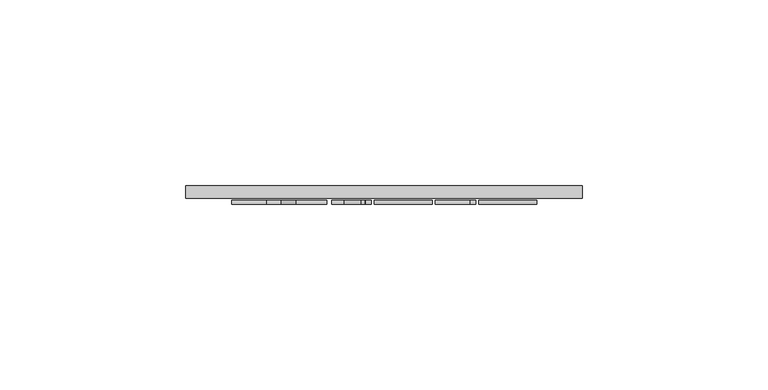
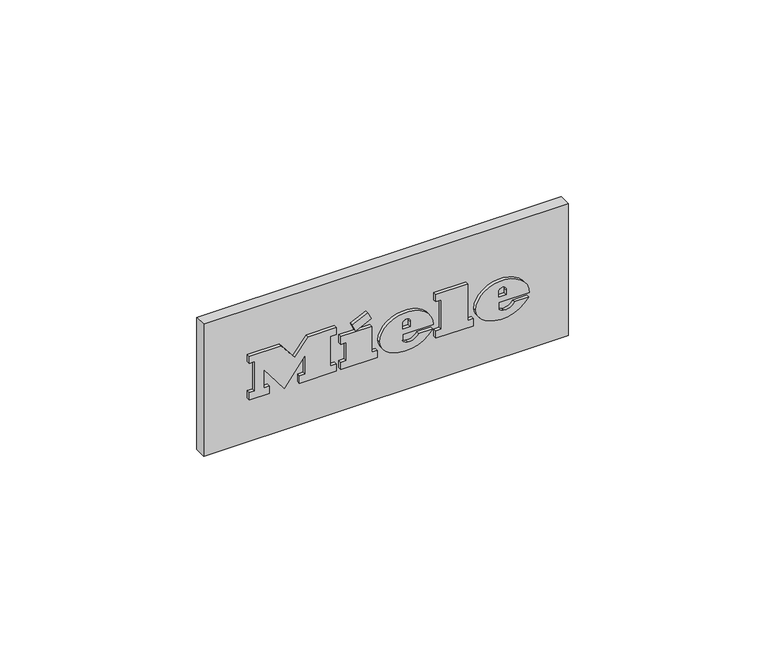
"""IFC4 building model written with IfcOpenShell, lengths in millimetres: proxy geometry, 12298850_USA_HR1422-3_EDST-CLST : 25142281_USA_12298850_HR1422-3_EDST-CLST."""

from ifc_helpers import new_model, si_unit, point, frame, frame_2d, origin, place, context, project, spatial, polyline, circle_curve, ellipse_curve, trimmed, segment, composite_curve, outline, extrude, source, transform, mapped, element, save
from ifc_brep_helpers import plane_surface, cylinder_surface, revolved_surface, extruded_surface, advanced_brep


def specialty_equipment_dd086f72(model_context):
    return source(origin(), model_context, "Body", "SolidModel", [
        advanced_brep(
        [(32.17, -675.0, 177.1995), (32.17, -675.0, 178.563), (41.2015, -675.0, 178.563), (25.4875, -675.0, 178.563), (29.2, -675.0, 174.0), (40.972, -675.0, 177.1995), (36.895, -675.0, 177.1995), (33.682, -675.0, 175.6875), (32.17, -675.0, 180.291), (32.17, -675.0, 181.7625), (34.4785, -675.0, 181.7625), (34.4785, -675.0, 180.291), (32.17, -674.0, 177.1995), (33.682, -674.0, 175.6875), (36.895, -674.0, 177.1995), (40.972, -674.0, 177.1995), (29.2, -674.0, 174.0), (25.4875, -674.0, 178.563), (41.2015, -674.0, 178.563), (32.17, -674.0, 178.563), (32.17, -674.0, 180.291), (34.4785, -674.0, 180.291), (34.4785, -674.0, 181.7625), (32.17, -674.0, 181.7625)],
        [
            (0, 1),
            (1, 2),
            (2, 3, ellipse_curve(frame((33.3445, -675.0, 178.563), z_axis=(0.0, -1.0, 0.0), x_axis=(-1.0, 0.0, 0.0)), 7.857, 6.4935)),
            (3, 4, circle_curve(frame((30.7120736, -675.0, 179.022), z_axis=(0.0, -1.0, 0.0), x_axis=(0.0, 0.0, -1.0)), 5.2446974)),
            (4, 5, circle_curve(frame((33.1872142, -675.0, 182.586), z_axis=(0.0, -1.0, 0.0), x_axis=(0.0, 0.0, -1.0)), 9.46664)),
            (5, 6),
            (6, 7, circle_curve(frame((34.3419118, -675.0, 178.455), z_axis=(0.0, 1.0, 0.0), x_axis=(0.0, 0.0, -1.0)), 2.8450905)),
            (7, 0, circle_curve(frame((33.682, -675.0, 177.1995), z_axis=(0.0, 1.0, 0.0), x_axis=(0.0, 0.0, -1.0)), 1.512)),
            (8, 9),
            (9, 10, circle_curve(frame((33.32425, -675.0, 181.7625), z_axis=(0.0, 1.0, 0.0), x_axis=(0.0, 0.0, -1.0)), 1.15425)),
            (10, 11),
            (11, 8),
            (12, 13, circle_curve(frame((33.682, -674.0, 177.1995), z_axis=(0.0, -1.0, 0.0), x_axis=(0.0, 0.0, -1.0)), 1.512)),
            (13, 14, circle_curve(frame((34.3419118, -674.0, 178.455), z_axis=(0.0, -1.0, 0.0), x_axis=(0.0, 0.0, -1.0)), 2.8450905)),
            (14, 15),
            (15, 16, circle_curve(frame((33.1872142, -674.0, 182.586), z_axis=(0.0, 1.0, 0.0), x_axis=(0.0, 0.0, -1.0)), 9.46664)),
            (16, 17, circle_curve(frame((30.7120736, -674.0, 179.022), z_axis=(0.0, 1.0, 0.0), x_axis=(0.0, 0.0, -1.0)), 5.2446974)),
            (17, 18, ellipse_curve(frame((33.3445, -674.0, 178.563), z_axis=(0.0, 1.0, 0.0), x_axis=(-1.0, 0.0, 0.0)), 7.857, 6.4935)),
            (18, 19),
            (19, 12),
            (20, 21),
            (21, 22),
            (22, 23, circle_curve(frame((33.32425, -674.0, 181.7625), z_axis=(0.0, -1.0, 0.0), x_axis=(0.0, 0.0, -1.0)), 1.15425)),
            (23, 20),
            (0, 12),
            (19, 1),
            (18, 2),
            (5, 15),
            (14, 6),
            (17, 3),
            (13, 7),
            (16, 4),
            (8, 20),
            (23, 9),
            (22, 10),
            (21, 11),
        ],
        [
            plane_surface(frame((32.17, -675.0, 178.563), z_axis=(0.0, -1.0, 0.0), x_axis=(0.0, 0.0, 1.0))),
            plane_surface(frame((32.17, -674.0, 178.563), z_axis=(0.0, 1.0, 0.0), x_axis=(0.0, 0.0, -1.0))),
            plane_surface(frame((32.17, -675.0, 177.1995), z_axis=(1.0, 0.0, 0.0), x_axis=(0.0, 1.0, 0.0))),
            plane_surface(frame((32.17, -675.0, 178.563), z_axis=(0.0, 0.0, -1.0), x_axis=(0.0, 1.0, 0.0))),
            plane_surface(frame((40.972, -675.0, 177.1995), z_axis=(0.0, 0.0, 1.0), x_axis=(0.0, 1.0, 0.0))),
            extruded_surface(trimmed(ellipse_curve(frame((33.3445, -673.0, 178.563), z_axis=(0.0, -1.0, 0.0), x_axis=(-1.0, 0.0, 0.0)), 7.857, 6.4935), [point((41.2015, -673.0, 178.563))], [point((25.4875, -673.0, 178.563))], True, "CARTESIAN"), (0.0, -1.0, 0.0), 1.0),
            revolved_surface(polyline([(34.3419118, -674.0, 175.60990950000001), (34.3419118, -675.0, 175.60990950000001)]), (34.3419118, -674.0, 178.455), (0.0, 1.0, 0.0)),
            revolved_surface(polyline([(33.682, -674.0, 175.6875), (33.682, -675.0, 175.6875)]), (33.682, -674.0, 177.1995), (0.0, 1.0, 0.0)),
            cylinder_surface(frame((30.7120736, -674.0, 179.022), z_axis=(0.0, -1.0, 0.0), x_axis=(0.0, 0.0, -1.0)), 5.2446974),
            cylinder_surface(frame((33.1872142, -674.0, 182.586), z_axis=(0.0, -1.0, 0.0), x_axis=(0.0, 0.0, -1.0)), 9.46664),
            plane_surface(frame((32.17, -675.0, 180.291), z_axis=(1.0, 0.0, 0.0), x_axis=(0.0, 1.0, 0.0))),
            revolved_surface(polyline([(33.32425, -674.0, 180.60825), (33.32425, -675.0, 180.60825)]), (33.32425, -674.0, 181.7625), (0.0, 1.0, 0.0)),
            plane_surface(frame((34.4785, -675.0, 181.7625), z_axis=(-1.0, 0.0, 0.0), x_axis=(0.0, 1.0, 0.0))),
            plane_surface(frame((34.4785, -675.0, 180.291), z_axis=(0.0, 0.0, 1.0), x_axis=(0.0, 1.0, 0.0))),
        ],
        [
            (0, [[1, 2, 3, 4, 5, 6, 7, 8], [9, 10, 11, 12]]),
            (1, [[13, 14, 15, 16, 17, 18, 19, 20], [21, 22, 23, 24]]),
            (2, [[-1, 25, -20, 26]]),
            (3, [[-2, -26, -19, 27]]),
            (4, [[-6, 28, -15, 29]]),
            (5, [[-3, -27, -18, 30]]),
            (6, [[-7, -29, -14, 31]]),
            (7, [[-8, -31, -13, -25]]),
            (8, [[-4, -30, -17, 32]]),
            (9, [[-5, -32, -16, -28]]),
            (10, [[-9, 33, -24, 34]]),
            (11, [[-10, -34, -23, 35]]),
            (12, [[-11, -35, -22, 36]]),
            (13, [[-12, -36, -21, -33]]),
        ],
    ),
        advanced_brep(
        [(3.9955, -675.0, 177.1995), (3.9955, -675.0, 178.563), (13.027, -675.0, 178.563), (-2.687, -675.0, 178.563), (1.0255, -675.0, 174.0), (12.7975, -675.0, 177.1995), (8.7205, -675.0, 177.1995), (5.5075, -675.0, 175.6875), (3.9955, -675.0, 180.291), (3.9955, -675.0, 181.7625), (6.304, -675.0, 181.7625), (6.304, -675.0, 180.291), (3.9955, -674.0, 177.1995), (5.5075, -674.0, 175.6875), (8.7205, -674.0, 177.1995), (12.7975, -674.0, 177.1995), (1.0255, -674.0, 174.0), (-2.687, -674.0, 178.563), (13.027, -674.0, 178.563), (3.9955, -674.0, 178.563), (3.9955, -674.0, 180.291), (6.304, -674.0, 180.291), (6.304, -674.0, 181.7625), (3.9955, -674.0, 181.7625)],
        [
            (0, 1),
            (1, 2),
            (2, 3, ellipse_curve(frame((5.17, -675.0, 178.563), z_axis=(0.0, -1.0, 0.0), x_axis=(-1.0, 0.0, 0.0)), 7.857, 6.4935)),
            (3, 4, circle_curve(frame((2.5375736, -675.0, 179.022), z_axis=(0.0, -1.0, 0.0), x_axis=(0.0, 0.0, -1.0)), 5.2446974)),
            (4, 5, circle_curve(frame((5.0127142, -675.0, 182.586), z_axis=(0.0, -1.0, 0.0), x_axis=(0.0, 0.0, -1.0)), 9.46664)),
            (5, 6),
            (6, 7, circle_curve(frame((6.1674118, -675.0, 178.455), z_axis=(0.0, 1.0, 0.0), x_axis=(0.0, 0.0, -1.0)), 2.8450905)),
            (7, 0, circle_curve(frame((5.5075, -675.0, 177.1995), z_axis=(0.0, 1.0, 0.0), x_axis=(0.0, 0.0, -1.0)), 1.512)),
            (8, 9),
            (9, 10, circle_curve(frame((5.14975, -675.0, 181.7625), z_axis=(0.0, 1.0, 0.0), x_axis=(0.0, 0.0, -1.0)), 1.15425)),
            (10, 11),
            (11, 8),
            (12, 13, circle_curve(frame((5.5075, -674.0, 177.1995), z_axis=(0.0, -1.0, 0.0), x_axis=(0.0, 0.0, -1.0)), 1.512)),
            (13, 14, circle_curve(frame((6.1674118, -674.0, 178.455), z_axis=(0.0, -1.0, 0.0), x_axis=(0.0, 0.0, -1.0)), 2.8450905)),
            (14, 15),
            (15, 16, circle_curve(frame((5.0127142, -674.0, 182.586), z_axis=(0.0, 1.0, 0.0), x_axis=(0.0, 0.0, -1.0)), 9.46664)),
            (16, 17, circle_curve(frame((2.5375736, -674.0, 179.022), z_axis=(0.0, 1.0, 0.0), x_axis=(0.0, 0.0, -1.0)), 5.2446974)),
            (17, 18, ellipse_curve(frame((5.17, -674.0, 178.563), z_axis=(0.0, 1.0, 0.0), x_axis=(-1.0, 0.0, 0.0)), 7.857, 6.4935)),
            (18, 19),
            (19, 12),
            (20, 21),
            (21, 22),
            (22, 23, circle_curve(frame((5.14975, -674.0, 181.7625), z_axis=(0.0, -1.0, 0.0), x_axis=(0.0, 0.0, -1.0)), 1.15425)),
            (23, 20),
            (0, 12),
            (19, 1),
            (18, 2),
            (5, 15),
            (14, 6),
            (17, 3),
            (13, 7),
            (16, 4),
            (8, 20),
            (23, 9),
            (22, 10),
            (21, 11),
        ],
        [
            plane_surface(frame((3.9955, -675.0, 178.563), z_axis=(0.0, -1.0, 0.0), x_axis=(0.0, 0.0, 1.0))),
            plane_surface(frame((3.9955, -674.0, 178.563), z_axis=(0.0, 1.0, 0.0), x_axis=(0.0, 0.0, -1.0))),
            plane_surface(frame((3.9955, -675.0, 177.1995), z_axis=(1.0, 0.0, 0.0), x_axis=(0.0, 1.0, 0.0))),
            plane_surface(frame((3.9955, -675.0, 178.563), z_axis=(0.0, 0.0, -1.0), x_axis=(0.0, 1.0, 0.0))),
            plane_surface(frame((12.7975, -675.0, 177.1995), z_axis=(0.0, 0.0, 1.0), x_axis=(0.0, 1.0, 0.0))),
            extruded_surface(trimmed(ellipse_curve(frame((5.17, -673.0, 178.563), z_axis=(0.0, -1.0, 0.0), x_axis=(-1.0, 0.0, 0.0)), 7.857, 6.4935), [point((13.027, -673.0, 178.563))], [point((-2.687, -673.0, 178.563))], True, "CARTESIAN"), (0.0, -1.0, 0.0), 1.0),
            revolved_surface(polyline([(6.1674118, -674.0, 175.60990950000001), (6.1674118, -675.0, 175.60990950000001)]), (6.1674118, -674.0, 178.455), (0.0, 1.0, 0.0)),
            revolved_surface(polyline([(5.5075, -674.0, 175.6875), (5.5075, -675.0, 175.6875)]), (5.5075, -674.0, 177.1995), (0.0, 1.0, 0.0)),
            cylinder_surface(frame((2.5375736, -674.0, 179.022), z_axis=(0.0, -1.0, 0.0), x_axis=(0.0, 0.0, -1.0)), 5.2446974),
            cylinder_surface(frame((5.0127142, -674.0, 182.586), z_axis=(0.0, -1.0, 0.0), x_axis=(0.0, 0.0, -1.0)), 9.46664),
            plane_surface(frame((3.9955, -675.0, 180.291), z_axis=(1.0, 0.0, 0.0), x_axis=(0.0, 1.0, 0.0))),
            revolved_surface(polyline([(5.14975, -674.0, 180.60825), (5.14975, -675.0, 180.60825)]), (5.14975, -674.0, 181.7625), (0.0, 1.0, 0.0)),
            plane_surface(frame((6.304, -675.0, 181.7625), z_axis=(-1.0, 0.0, 0.0), x_axis=(0.0, 1.0, 0.0))),
            plane_surface(frame((6.304, -675.0, 180.291), z_axis=(0.0, 0.0, 1.0), x_axis=(0.0, 1.0, 0.0))),
        ],
        [
            (0, [[1, 2, 3, 4, 5, 6, 7, 8], [9, 10, 11, 12]]),
            (1, [[13, 14, 15, 16, 17, 18, 19, 20], [21, 22, 23, 24]]),
            (2, [[-1, 25, -20, 26]]),
            (3, [[-2, -26, -19, 27]]),
            (4, [[-6, 28, -15, 29]]),
            (5, [[-3, -27, -18, 30]]),
            (6, [[-7, -29, -14, 31]]),
            (7, [[-8, -31, -13, -25]]),
            (8, [[-4, -30, -17, 32]]),
            (9, [[-5, -32, -16, -28]]),
            (10, [[-9, 33, -24, 34]]),
            (11, [[-10, -34, -23, 35]]),
            (12, [[-11, -35, -22, 36]]),
            (13, [[-12, -36, -21, -33]]),
        ],
    ),
        extrude(outline(polyline([(186.7035, -10.76), (184.5165, -9.734), (186.6495, -5.1575), (188.8365, -6.17), (186.7035, -10.76)])), frame((0.0, -675.0, 0.0), z_axis=(0.0, 1.0, 0.0), x_axis=(0.0, 0.0, 1.0)), (0.0, 0.0, 1.0), 1.0),
        extrude(outline(polyline([(184.2195, -14.0945), (181.803, -14.0945), (181.803, -12.488), (176.268, -12.488), (176.268, -14.0945), (174.0, -14.0945), (174.0, -3.443), (176.268, -3.443), (176.268, -5.009), (184.2195, -5.009), (184.2195, -14.0945)])), frame((0.0, -675.0, 0.0), z_axis=(0.0, 1.0, 0.0), x_axis=(0.0, 0.0, 1.0)), (0.0, 0.0, 1.0), 1.0),
        extrude(outline(polyline([(185.2995, 13.783), (185.2995, 15.403), (176.268, 15.403), (176.268, 13.783), (174.0, 13.783), (174.0, 24.7315), (176.268, 24.7315), (176.268, 23.071), (187.5, 23.071), (187.5, 13.783), (185.2995, 13.783)])), frame((0.0, -675.0, 0.0), z_axis=(0.0, 1.0, 0.0), x_axis=(0.0, 0.0, 1.0)), (0.0, 0.0, 1.0), 1.0),
        extrude(outline(polyline([(185.2995, -41.0), (185.2995, -39.3665), (176.268, -39.3665), (176.268, -41.0), (174.0, -41.0), (174.0, -35.06), (176.268, -35.06), (176.268, -36.68), (181.9756247, -36.68), (174.0, -30.6455), (182.2527223, -24.584), (176.268, -24.584), (176.268, -26.2445), (174.0, -26.2445), (174.0, -15.4715), (176.268, -15.4715), (176.268, -17.186), (185.2995, -17.186), (185.2995, -15.4715), (187.5, -15.4715), (187.5, -23.693), (182.4375, -27.635), (187.5, -31.5905), (187.5, -41.0), (185.2995, -41.0)])), frame((0.0, -675.0, 0.0), z_axis=(0.0, 1.0, 0.0), x_axis=(0.0, 0.0, 1.0)), (0.0, 0.0, 1.0), 1.0),
        extrude(outline(composite_curve([segment(polyline([(-670.0, 160.0), (-673.5, 160.0)]), True, "CONTINUOUS"), segment(trimmed(circle_curve(frame_2d((-464.0137328, 180.5)), 210.4869263), [point((-673.5, 160.0))], [point((-673.5, 201.0))], False, "CARTESIAN"), True, "CONTINUOUS"), segment(polyline([(-673.5, 201.0), (-670.0, 201.0), (-670.0, 160.0)]), True, "CONTINUOUS")], self_intersect=False)), frame((-53.5, 0.0, 0.0), z_axis=(1.0, 0.0, 0.0), x_axis=(0.0, 1.0, 0.0)), (0.0, 0.0, 1.0), 107.0),
    ])


if __name__ == "__main__":
    model = new_model("IFC4")
    model_context = context("Model", 3, world=origin())
    ifc_project = project(units=[si_unit("LENGTHUNIT", "METRE", prefix="MILLI")], contexts=[model_context])
    site = spatial("IfcSite", under=ifc_project)
    building = spatial("IfcBuilding", under=site)
    placement = place(None, origin())
    specialty_equipment_shape = specialty_equipment_dd086f72(model_context)
    element("IfcBuildingElementProxy", 1, Name="12298850_USA_HR1422-3_EDST-CLST : 25142281_USA_12298850_HR1422-3_EDST-CLST", ObjectType="12298850_USA_HR1422-3_EDST-CLST : 25142281_USA_12298850_HR1422-3_EDST-CLST", at=placement, inside=building, context=model_context, shape_type="MappedRepresentation", body=[
        mapped(specialty_equipment_shape, transform((0.0, 0.0, 0.0), x_axis=(1.0, 0.0, 0.0), y_axis=(0.0, 1.0, 0.0), z_axis=(0.0, 0.0, 1.0))),
    ])
    save(model, "model.ifc")
